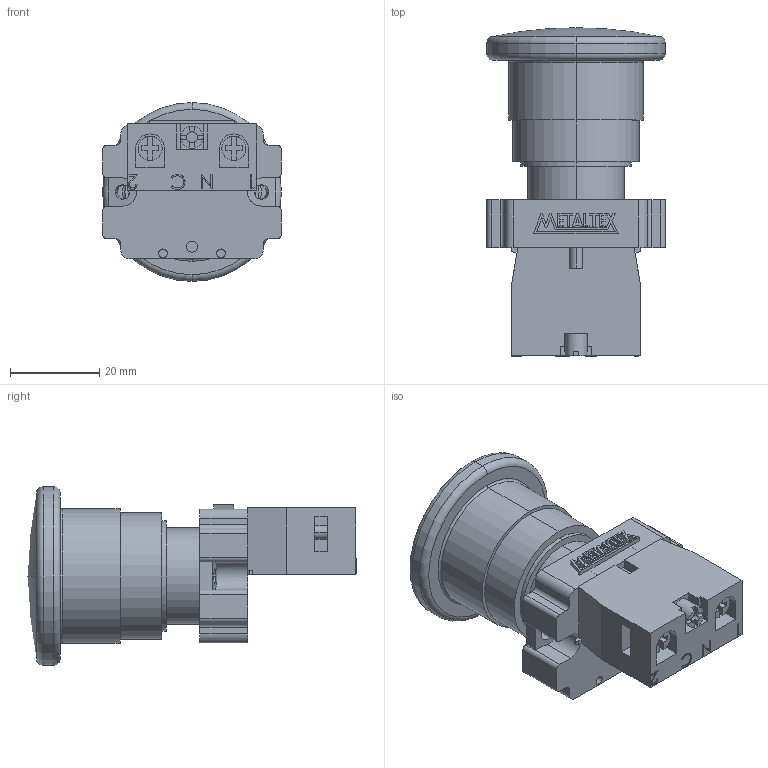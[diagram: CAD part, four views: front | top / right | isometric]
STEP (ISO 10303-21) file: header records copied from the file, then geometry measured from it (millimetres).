
FILE_DESCRIPTION (( 'STEP AP203' ), '1' );
FILE_NAME ('M20BMR-B-1A.STEP', '2018-01-17T14:12:37', ( '' ), ( '' ), 'SwSTEP 2.0', 'SolidWorks 2012', '' );
FILE_SCHEMA (( 'CONFIG_CONTROL_DESIGN' ));
Length unit declared in the file: millimetre
Products named in the file (4): M20BMR; M20-1B; METALTEX 18,98; M20BMR-B-1A
Assembly tree (3 placements, depth 2):
  M20BMR-B-1A
    M20BMR
    M20-1B
    METALTEX 18,98
Bounding box: 40 x 73.5 x 40 mm (x, y, z)
Volume: 46948.3 mm3; surface area: 13285 mm2
Topology: 9 solids, 9 shells, 349 faces, 909 edges, 603 vertices
Faces by surface type: plane 253, cylinder 69, bspline 15, torus 10, sphere 2
Entity records: 11971 total; most frequent: CARTESIAN_POINT 2906, ORIENTED_EDGE 1818, DIRECTION 1735, EDGE_CURVE 909, LINE 687, VECTOR 687, VERTEX_POINT 603, AXIS2_PLACEMENT_3D 524
